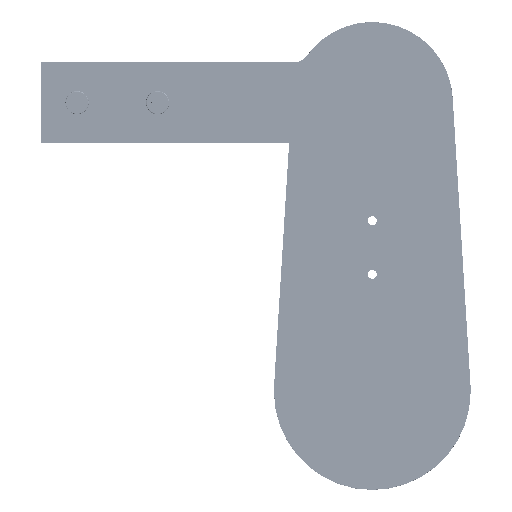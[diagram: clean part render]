
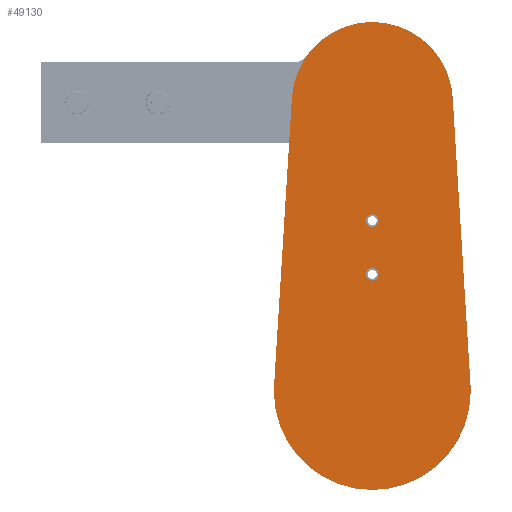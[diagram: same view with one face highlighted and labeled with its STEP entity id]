
A CAD part, top view. The second image highlights one B-rep face of the part: STEP entity #49130.
In plain terms, the highlighted planar face has unit normal (0, 0, 1) as drawn and (0, 0, -1) by its records, which use the part's own axes.
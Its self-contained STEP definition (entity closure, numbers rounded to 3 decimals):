
#224 = CIRCLE ( 'NONE', #39743, 55. ) ;
#821 = DIRECTION ( 'NONE',  ( 1., 0., 0. ) ) ;
#968 = ORIENTED_EDGE ( 'NONE', *, *, #30804, .F. ) ;
#1291 = EDGE_CURVE ( 'NONE', #81516, #68901, #224, .T. ) ;
#1631 = DIRECTION ( 'NONE',  ( 1., 0., 0. ) ) ;
#3115 = LINE ( 'NONE', #19165, #68311 ) ;
#3232 = VERTEX_POINT ( 'NONE', #68236 ) ;
#3425 = VERTEX_POINT ( 'NONE', #44753 ) ;
#3713 = CARTESIAN_POINT ( 'NONE',  ( -54.894, 3.406, 0. ) ) ;
#3806 = EDGE_LOOP ( 'NONE', ( #35741, #70074 ) ) ;
#3963 = AXIS2_PLACEMENT_3D ( 'NONE', #77266, #38245, #83851 ) ;
#3986 = CARTESIAN_POINT ( 'NONE',  ( 54.894, 3.406, 0. ) ) ;
#4214 = DIRECTION ( 'NONE',  ( 1., 0., 0. ) ) ;
#5900 = CARTESIAN_POINT ( 'NONE',  ( 0., 0., 0. ) ) ;
#5928 = AXIS2_PLACEMENT_3D ( 'NONE', #10098, #55607, #16654 ) ;
#7696 = ORIENTED_EDGE ( 'NONE', *, *, #28076, .F. ) ;
#8066 = CIRCLE ( 'NONE', #51190, 55. ) ;
#8710 = ORIENTED_EDGE ( 'NONE', *, *, #1291, .F. ) ;
#9850 = VECTOR ( 'NONE', #10018, 1000. ) ;
#10018 = DIRECTION ( 'NONE',  ( -0.062, 0.998, 0. ) ) ;
#10098 = CARTESIAN_POINT ( 'NONE',  ( 0., 95.5, 0. ) ) ;
#11900 = LINE ( 'NONE', #62089, #9850 ) ;
#12377 = EDGE_CURVE ( 'NONE', #19723, #55263, #36110, .T. ) ;
#12458 = DIRECTION ( 'NONE',  ( 1., 0., 0. ) ) ;
#13591 = CARTESIAN_POINT ( 'NONE',  ( 0., 161.5, 0. ) ) ;
#16654 = DIRECTION ( 'NONE',  ( 1., 0., 0. ) ) ;
#18246 = CARTESIAN_POINT ( 'NONE',  ( -44.914, 164.286, 0. ) ) ;
#18927 = EDGE_LOOP ( 'NONE', ( #53463, #43441, #968, #78541, #8710, #69003 ) ) ;
#19165 = CARTESIAN_POINT ( 'NONE',  ( -44.914, 164.286, 0. ) ) ;
#19723 = VERTEX_POINT ( 'NONE', #21775 ) ;
#21114 = EDGE_CURVE ( 'NONE', #47311, #34389, #11900, .T. ) ;
#21775 = CARTESIAN_POINT ( 'NONE',  ( -3.5, 95.5, 0. ) ) ;
#23711 = CARTESIAN_POINT ( 'NONE',  ( 44.914, 164.286, 0. ) ) ;
#25707 = DIRECTION ( 'NONE',  ( -0.062, -0.998, 0. ) ) ;
#26688 = PLANE ( 'NONE',  #71845 ) ;
#27878 = AXIS2_PLACEMENT_3D ( 'NONE', #69004, #30002, #75572 ) ;
#27898 = FACE_BOUND ( 'NONE', #39354, .T. ) ;
#28076 = EDGE_CURVE ( 'NONE', #3425, #55574, #56700, .T. ) ;
#28136 = CARTESIAN_POINT ( 'NONE',  ( 3.5, 95.5, 0. ) ) ;
#30002 = DIRECTION ( 'NONE',  ( 0., 0., -1. ) ) ;
#30307 = VERTEX_POINT ( 'NONE', #18246 ) ;
#30804 = EDGE_CURVE ( 'NONE', #3232, #47311, #8066, .T. ) ;
#31510 = CIRCLE ( 'NONE', #58942, 3.5 ) ;
#32339 = DIRECTION ( 'NONE',  ( 0., 0., 1. ) ) ;
#33009 = CIRCLE ( 'NONE', #78058, 45. ) ;
#33216 = DIRECTION ( 'NONE',  ( 1., 0., 0. ) ) ;
#34389 = VERTEX_POINT ( 'NONE', #23711 ) ;
#35741 = ORIENTED_EDGE ( 'NONE', *, *, #77205, .F. ) ;
#36110 = CIRCLE ( 'NONE', #5928, 3.5 ) ;
#38245 = DIRECTION ( 'NONE',  ( 0., 0., 1. ) ) ;
#38775 = EDGE_CURVE ( 'NONE', #55574, #3425, #31510, .T. ) ;
#39057 = FACE_OUTER_BOUND ( 'NONE', #18927, .T. ) ;
#39354 = EDGE_LOOP ( 'NONE', ( #7696, #45943 ) ) ;
#39743 = AXIS2_PLACEMENT_3D ( 'NONE', #5900, #51376, #12458 ) ;
#39793 = DIRECTION ( 'NONE',  ( 0., 0., -1. ) ) ;
#40595 = DIRECTION ( 'NONE',  ( 0., 0., -1. ) ) ;
#43148 = DIRECTION ( 'NONE',  ( 0., 0., 1. ) ) ;
#43441 = ORIENTED_EDGE ( 'NONE', *, *, #21114, .F. ) ;
#44753 = CARTESIAN_POINT ( 'NONE',  ( 3.5, 65.5, 0. ) ) ;
#45943 = ORIENTED_EDGE ( 'NONE', *, *, #38775, .F. ) ;
#47311 = VERTEX_POINT ( 'NONE', #3986 ) ;
#49130 = ADVANCED_FACE ( 'NONE', ( #71665, #27898, #39057 ), #26688, .F. ) ;
#51067 = CIRCLE ( 'NONE', #3963, 55. ) ;
#51190 = AXIS2_PLACEMENT_3D ( 'NONE', #82228, #43148, #4214 ) ;
#51376 = DIRECTION ( 'NONE',  ( 0., 0., 1. ) ) ;
#53463 = ORIENTED_EDGE ( 'NONE', *, *, #73035, .F. ) ;
#55263 = VERTEX_POINT ( 'NONE', #28136 ) ;
#55574 = VERTEX_POINT ( 'NONE', #78154 ) ;
#55607 = DIRECTION ( 'NONE',  ( 0., 0., -1. ) ) ;
#56306 = CARTESIAN_POINT ( 'NONE',  ( -55., 0., 0. ) ) ;
#56700 = CIRCLE ( 'NONE', #27878, 3.5 ) ;
#58942 = AXIS2_PLACEMENT_3D ( 'NONE', #79628, #40595, #1631 ) ;
#60716 = EDGE_CURVE ( 'NONE', #68901, #3232, #51067, .T. ) ;
#62089 = CARTESIAN_POINT ( 'NONE',  ( 44.914, 164.286, 0. ) ) ;
#62173 = AXIS2_PLACEMENT_3D ( 'NONE', #78798, #39793, #821 ) ;
#64273 = CIRCLE ( 'NONE', #62173, 3.5 ) ;
#68236 = CARTESIAN_POINT ( 'NONE',  ( 55., 0., 0. ) ) ;
#68311 = VECTOR ( 'NONE', #25707, 1000. ) ;
#68901 = VERTEX_POINT ( 'NONE', #56306 ) ;
#69003 = ORIENTED_EDGE ( 'NONE', *, *, #81179, .F. ) ;
#69004 = CARTESIAN_POINT ( 'NONE',  ( 0., 65.5, 0. ) ) ;
#70074 = ORIENTED_EDGE ( 'NONE', *, *, #12377, .F. ) ;
#71358 = CARTESIAN_POINT ( 'NONE',  ( 0., 161.5, 0. ) ) ;
#71665 = FACE_BOUND ( 'NONE', #3806, .T. ) ;
#71845 = AXIS2_PLACEMENT_3D ( 'NONE', #13591, #72253, #33216 ) ;
#72253 = DIRECTION ( 'NONE',  ( 0., 0., 1. ) ) ;
#73035 = EDGE_CURVE ( 'NONE', #34389, #30307, #33009, .T. ) ;
#75572 = DIRECTION ( 'NONE',  ( 1., 0., 0. ) ) ;
#77205 = EDGE_CURVE ( 'NONE', #55263, #19723, #64273, .T. ) ;
#77266 = CARTESIAN_POINT ( 'NONE',  ( 0., 0., 0. ) ) ;
#77903 = DIRECTION ( 'NONE',  ( 1., 0., 0. ) ) ;
#78058 = AXIS2_PLACEMENT_3D ( 'NONE', #71358, #32339, #77903 ) ;
#78154 = CARTESIAN_POINT ( 'NONE',  ( -3.5, 65.5, 0. ) ) ;
#78541 = ORIENTED_EDGE ( 'NONE', *, *, #60716, .F. ) ;
#78798 = CARTESIAN_POINT ( 'NONE',  ( 0., 95.5, 0. ) ) ;
#79628 = CARTESIAN_POINT ( 'NONE',  ( 0., 65.5, 0. ) ) ;
#81179 = EDGE_CURVE ( 'NONE', #30307, #81516, #3115, .T. ) ;
#81516 = VERTEX_POINT ( 'NONE', #3713 ) ;
#82228 = CARTESIAN_POINT ( 'NONE',  ( 0., 0., 0. ) ) ;
#83851 = DIRECTION ( 'NONE',  ( 1., 0., 0. ) ) ;
